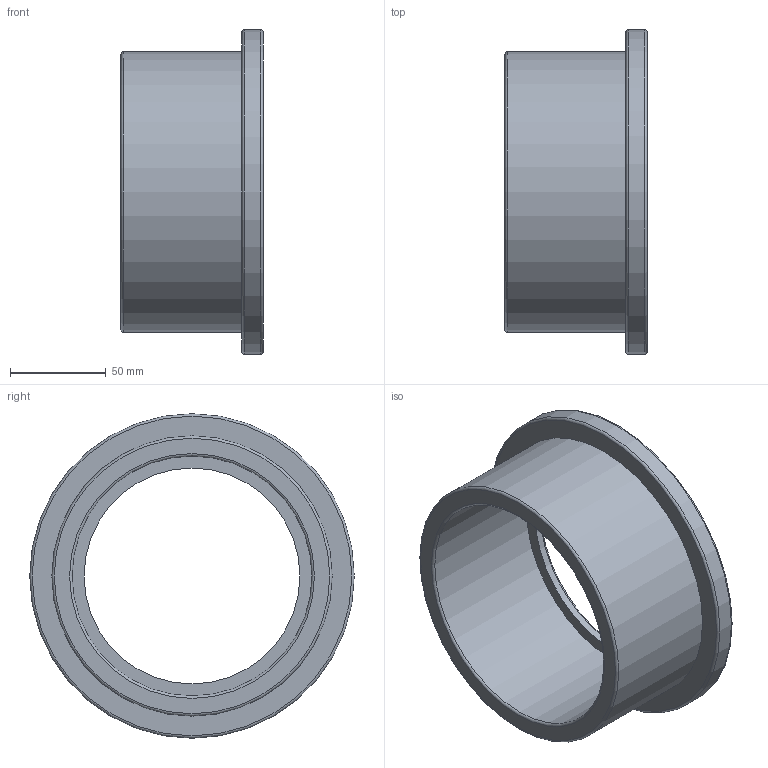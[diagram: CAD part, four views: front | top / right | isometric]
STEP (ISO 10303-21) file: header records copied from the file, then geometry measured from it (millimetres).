
FILE_DESCRIPTION(/* description */ ('PLASSON FLANGE FLAT AD.-CEM 125'),/* implementation_level */ '2;1');
FILE_NAME(/* name */ 'C:\Dropbox\KIMPROJECTS-Inventor\99-16-3568-Processing\PVC Catalog 2017\26_09_18\055100\055100125.ipt.stp',/* time_stamp */ '2018-09-27T11:50:56+03:00',/* author */ ('KIM'),/* organization */ (''),/* preprocessor_version */ 'ST-DEVELOPER v15.6',/* originating_system */ 'Autodesk Inventor 2015',/* authorisation */ '');
FILE_SCHEMA (('AUTOMOTIVE_DESIGN { 1 0 10303 214 3 1 1 }'));
Length unit declared in the file: millimetre
Products named in the file (1): 055100125
Bounding box: 74 x 169 x 169 mm (x, y, z)
Volume: 404249 mm3; surface area: 87366.3 mm2
Topology: 1 solids, 1 shells, 13 faces, 22 edges, 13 vertices
Faces by surface type: torus 5, cylinder 4, plane 4
Full cylindrical faces by diameter (mm): 112.5 x1, 125 x1, 146 x1, 169 x1
Entity records: 292 total; most frequent: DIRECTION 54, CARTESIAN_POINT 40, AXIS2_PLACEMENT_3D 27, EDGE_LOOP 26, ORIENTED_EDGE 26, FACE_BOUND 13, FACE_OUTER_BOUND 13, CIRCLE 13
